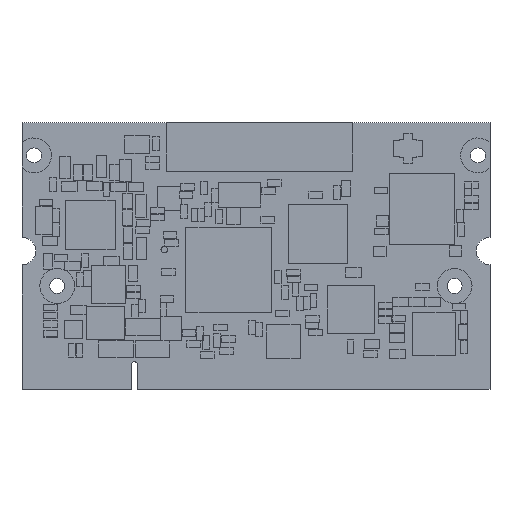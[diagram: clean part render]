
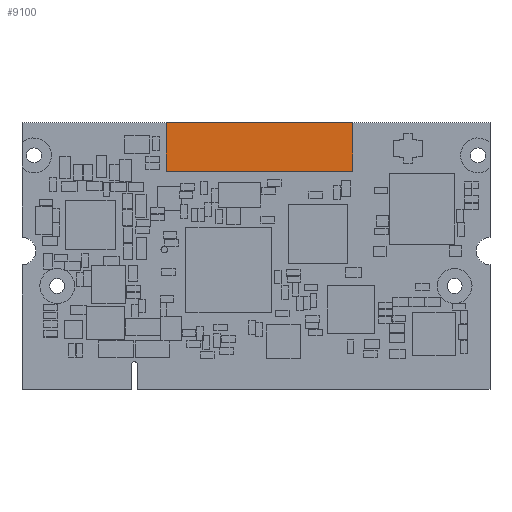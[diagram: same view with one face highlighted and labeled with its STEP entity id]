
A CAD part, top view. The second image highlights one B-rep face of the part: STEP entity #9100.
In plain terms, the highlighted planar face has unit normal (0, 0, 1).
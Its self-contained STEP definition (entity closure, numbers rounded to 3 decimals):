
#4286 = VECTOR ( 'NONE', #10761, 1000. ) ;
#4287 = VECTOR ( 'NONE', #10763, 1000. ) ;
#4290 = VECTOR ( 'NONE', #10769, 1000. ) ;
#4296 = VECTOR ( 'NONE', #10779, 1000. ) ;
#9100 = ADVANCED_FACE ( 'NONE', ( #20269 ), #45607, .F. ) ;
#10760 = CARTESIAN_POINT ( 'NONE',  ( 47.76, 38.557, 3.061 ) ) ;
#10761 = DIRECTION ( 'NONE',  ( -1., 0., 0. ) ) ;
#10762 = CARTESIAN_POINT ( 'NONE',  ( 47.76, 42.494, 3.061 ) ) ;
#10763 = DIRECTION ( 'NONE',  ( 0., 1., 0. ) ) ;
#10768 = CARTESIAN_POINT ( 'NONE',  ( 47.76, 31.514, 3.061 ) ) ;
#10769 = DIRECTION ( 'NONE',  ( 1., 0., 0. ) ) ;
#10778 = CARTESIAN_POINT ( 'NONE',  ( 20.8, 31.514, 3.061 ) ) ;
#10779 = DIRECTION ( 'NONE',  ( 0., -1., 0. ) ) ;
#11722 = CARTESIAN_POINT ( 'NONE',  ( 20.8, 38.557, 3.061 ) ) ;
#11725 = CARTESIAN_POINT ( 'NONE',  ( 20.8, 31.514, 3.061 ) ) ;
#11734 = CARTESIAN_POINT ( 'NONE',  ( 47.76, 31.514, 3.061 ) ) ;
#11739 = CARTESIAN_POINT ( 'NONE',  ( 47.76, 38.557, 3.061 ) ) ;
#17885 = LINE ( 'NONE', #10760, #4286 ) ;
#17887 = LINE ( 'NONE', #10762, #4287 ) ;
#17892 = LINE ( 'NONE', #10768, #4290 ) ;
#17902 = LINE ( 'NONE', #10778, #4296 ) ;
#20269 = FACE_OUTER_BOUND ( 'NONE', #33401, .T. ) ;
#29507 = ORIENTED_EDGE ( 'NONE', *, *, #47002, .T. ) ;
#29508 = ORIENTED_EDGE ( 'NONE', *, *, #46994, .T. ) ;
#29509 = ORIENTED_EDGE ( 'NONE', *, *, #46993, .T. ) ;
#29511 = ORIENTED_EDGE ( 'NONE', *, *, #46997, .T. ) ;
#33401 = EDGE_LOOP ( 'NONE', ( #29508, #29509, #29507, #29511 ) ) ;
#37307 = AXIS2_PLACEMENT_3D ( 'NONE', #45608, #45609, #45610 ) ;
#45607 = PLANE ( 'NONE',  #37307 ) ;
#45608 = CARTESIAN_POINT ( 'NONE',  ( 47.76, 42.494, 3.061 ) ) ;
#45609 = DIRECTION ( 'NONE',  ( 0., 0., -1. ) ) ;
#45610 = DIRECTION ( 'NONE',  ( -1., 0., 0. ) ) ;
#46993 = EDGE_CURVE ( 'NONE', #51015, #51008, #17885, .T. ) ;
#46994 = EDGE_CURVE ( 'NONE', #51013, #51015, #17887, .T. ) ;
#46997 = EDGE_CURVE ( 'NONE', #51009, #51013, #17892, .T. ) ;
#47002 = EDGE_CURVE ( 'NONE', #51008, #51009, #17902, .T. ) ;
#51008 = VERTEX_POINT ( 'NONE', #11722 ) ;
#51009 = VERTEX_POINT ( 'NONE', #11725 ) ;
#51013 = VERTEX_POINT ( 'NONE', #11734 ) ;
#51015 = VERTEX_POINT ( 'NONE', #11739 ) ;
